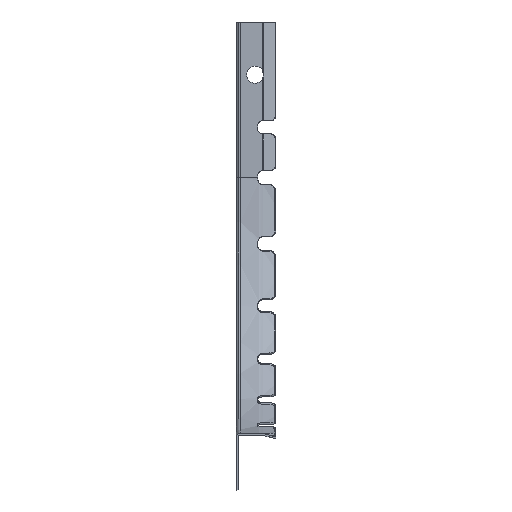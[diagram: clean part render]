
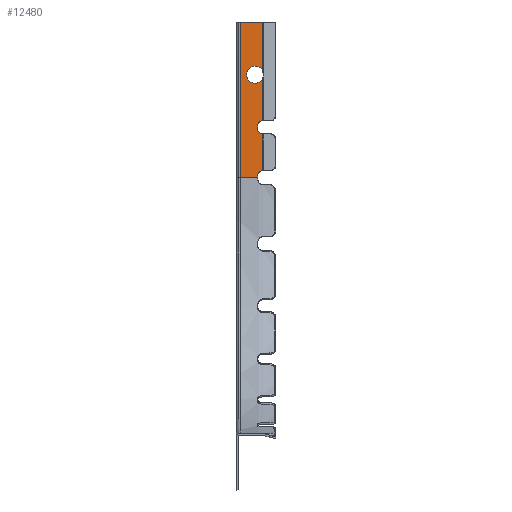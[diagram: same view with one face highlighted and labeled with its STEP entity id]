
A CAD part, left-side view. The second image highlights one B-rep face of the part: STEP entity #12480.
In plain terms, the highlighted planar face has unit normal (-1, 0, 0).
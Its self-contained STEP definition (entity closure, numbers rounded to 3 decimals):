
#220 = CIRCLE ( 'NONE', #7707, 3.25 ) ;
#586 = LINE ( 'NONE', #6348, #2292 ) ;
#1059 = AXIS2_PLACEMENT_3D ( 'NONE', #9119, #14666, #6329 ) ;
#1060 = VERTEX_POINT ( 'NONE', #14009 ) ;
#1300 = VERTEX_POINT ( 'NONE', #9454 ) ;
#1370 = CARTESIAN_POINT ( 'NONE',  ( -250.7, -0.8, 348.01 ) ) ;
#1420 = VERTEX_POINT ( 'NONE', #16887 ) ;
#1421 = ORIENTED_EDGE ( 'NONE', *, *, #4627, .T. ) ;
#2292 = VECTOR ( 'NONE', #10053, 1000. ) ;
#2356 = DIRECTION ( 'NONE',  ( 0., 0., 1. ) ) ;
#2440 = DIRECTION ( 'NONE',  ( 1., 0., 0. ) ) ;
#2532 = CARTESIAN_POINT ( 'NONE',  ( -250.7, -6.445, 387. ) ) ;
#2772 = VECTOR ( 'NONE', #11711, 1000. ) ;
#3116 = CARTESIAN_POINT ( 'NONE',  ( -250.7, -6.445, 390.25 ) ) ;
#3301 = EDGE_LOOP ( 'NONE', ( #15343, #16730, #5082, #13167, #9598, #8528, #12045, #8770, #16611, #5265, #7321, #3890, #8244, #1421 ) ) ;
#3370 = AXIS2_PLACEMENT_3D ( 'NONE', #10011, #15550, #8650 ) ;
#3451 = CARTESIAN_POINT ( 'NONE',  ( -250.7, 0., 348.01 ) ) ;
#3467 = CARTESIAN_POINT ( 'NONE',  ( -250.7, -9.195, 369.484 ) ) ;
#3625 = EDGE_CURVE ( 'NONE', #10505, #1300, #12558, .T. ) ;
#3628 = VECTOR ( 'NONE', #16945, 1000. ) ;
#3890 = ORIENTED_EDGE ( 'NONE', *, *, #5836, .T. ) ;
#3891 = CARTESIAN_POINT ( 'NONE',  ( -250.7, -9.195, 388.733 ) ) ;
#3966 = DIRECTION ( 'NONE',  ( 0., 0., 1. ) ) ;
#4508 = FACE_OUTER_BOUND ( 'NONE', #3301, .T. ) ;
#4559 = DIRECTION ( 'NONE',  ( 0., -1., 0. ) ) ;
#4627 = EDGE_CURVE ( 'NONE', #10215, #1060, #10217, .T. ) ;
#4805 = DIRECTION ( 'NONE',  ( 0., 0., 1. ) ) ;
#4862 = VERTEX_POINT ( 'NONE', #1370 ) ;
#5082 = ORIENTED_EDGE ( 'NONE', *, *, #9008, .T. ) ;
#5183 = EDGE_CURVE ( 'NONE', #11433, #4862, #7237, .T. ) ;
#5191 = VERTEX_POINT ( 'NONE', #12784 ) ;
#5265 = ORIENTED_EDGE ( 'NONE', *, *, #16766, .T. ) ;
#5272 = EDGE_CURVE ( 'NONE', #1060, #10880, #6506, .T. ) ;
#5799 = CARTESIAN_POINT ( 'NONE',  ( -250.7, -6.445, 387. ) ) ;
#5836 = EDGE_CURVE ( 'NONE', #1300, #5191, #7535, .T. ) ;
#5927 = VECTOR ( 'NONE', #4559, 1000. ) ;
#6329 = DIRECTION ( 'NONE',  ( 0., 1., 0. ) ) ;
#6348 = CARTESIAN_POINT ( 'NONE',  ( -250.7, -9.195, 348.01 ) ) ;
#6452 = VERTEX_POINT ( 'NONE', #7107 ) ;
#6506 = CIRCLE ( 'NONE', #17200, 3.25 ) ;
#6597 = DIRECTION ( 'NONE',  ( 0., 0., 1. ) ) ;
#6672 = CARTESIAN_POINT ( 'NONE',  ( -250.7, -9.195, 407. ) ) ;
#6747 = AXIS2_PLACEMENT_3D ( 'NONE', #17077, #14188, #9910 ) ;
#7107 = CARTESIAN_POINT ( 'NONE',  ( -250.7, -7.445, 348.51 ) ) ;
#7237 = LINE ( 'NONE', #3451, #3628 ) ;
#7321 = ORIENTED_EDGE ( 'NONE', *, *, #3625, .T. ) ;
#7535 = LINE ( 'NONE', #10249, #2772 ) ;
#7707 = AXIS2_PLACEMENT_3D ( 'NONE', #9472, #9554, #15016 ) ;
#7843 = CARTESIAN_POINT ( 'NONE',  ( -250.7, -7.445, 348.01 ) ) ;
#7979 = VECTOR ( 'NONE', #3966, 1000. ) ;
#8244 = ORIENTED_EDGE ( 'NONE', *, *, #8911, .T. ) ;
#8528 = ORIENTED_EDGE ( 'NONE', *, *, #10081, .F. ) ;
#8650 = DIRECTION ( 'NONE',  ( 0., 0., 1. ) ) ;
#8770 = ORIENTED_EDGE ( 'NONE', *, *, #11426, .T. ) ;
#8911 = EDGE_CURVE ( 'NONE', #5191, #10215, #12864, .T. ) ;
#9008 = EDGE_CURVE ( 'NONE', #12298, #17331, #15178, .T. ) ;
#9053 = CARTESIAN_POINT ( 'NONE',  ( -250.7, -9.3, 407. ) ) ;
#9099 = DIRECTION ( 'NONE',  ( 0., 1., 0. ) ) ;
#9119 = CARTESIAN_POINT ( 'NONE',  ( -250.7, -9.445, 348.51 ) ) ;
#9454 = CARTESIAN_POINT ( 'NONE',  ( -250.7, -7.445, 366.5 ) ) ;
#9472 = CARTESIAN_POINT ( 'NONE',  ( -250.7, -6.445, 387. ) ) ;
#9526 = LINE ( 'NONE', #17690, #15193 ) ;
#9554 = DIRECTION ( 'NONE',  ( 1., 0., 0. ) ) ;
#9598 = ORIENTED_EDGE ( 'NONE', *, *, #10214, .F. ) ;
#9660 = AXIS2_PLACEMENT_3D ( 'NONE', #2532, #2440, #2356 ) ;
#9700 = EDGE_CURVE ( 'NONE', #17331, #11597, #14567, .T. ) ;
#9755 = EDGE_CURVE ( 'NONE', #6452, #1420, #15769, .T. ) ;
#9910 = DIRECTION ( 'NONE',  ( 0., 1., 0. ) ) ;
#10011 = CARTESIAN_POINT ( 'NONE',  ( -250.7, 0., 407. ) ) ;
#10053 = DIRECTION ( 'NONE',  ( 0., 0., 1. ) ) ;
#10081 = EDGE_CURVE ( 'NONE', #4862, #16860, #9526, .T. ) ;
#10214 = EDGE_CURVE ( 'NONE', #16860, #11597, #12887, .T. ) ;
#10215 = VERTEX_POINT ( 'NONE', #3467 ) ;
#10217 = LINE ( 'NONE', #17204, #16051 ) ;
#10249 = CARTESIAN_POINT ( 'NONE',  ( -250.7, -7.445, 364.5 ) ) ;
#10287 = DIRECTION ( 'NONE',  ( 1., 0., 0. ) ) ;
#10505 = VERTEX_POINT ( 'NONE', #15290 ) ;
#10880 = VERTEX_POINT ( 'NONE', #15709 ) ;
#11426 = EDGE_CURVE ( 'NONE', #11433, #6452, #17545, .T. ) ;
#11433 = VERTEX_POINT ( 'NONE', #7843 ) ;
#11597 = VERTEX_POINT ( 'NONE', #6672 ) ;
#11711 = DIRECTION ( 'NONE',  ( 0., 0., 1. ) ) ;
#11780 = DIRECTION ( 'NONE',  ( 0., 0., 1. ) ) ;
#12045 = ORIENTED_EDGE ( 'NONE', *, *, #5183, .F. ) ;
#12298 = VERTEX_POINT ( 'NONE', #3116 ) ;
#12352 = DIRECTION ( 'NONE',  ( 0., 0., 1. ) ) ;
#12480 = ADVANCED_FACE ( 'NONE', ( #4508 ), #13023, .F. ) ;
#12558 = CIRCLE ( 'NONE', #6747, 2. ) ;
#12584 = AXIS2_PLACEMENT_3D ( 'NONE', #13111, #10287, #9099 ) ;
#12784 = CARTESIAN_POINT ( 'NONE',  ( -250.7, -7.445, 367.5 ) ) ;
#12864 = CIRCLE ( 'NONE', #12584, 2. ) ;
#12887 = LINE ( 'NONE', #9053, #5927 ) ;
#13023 = PLANE ( 'NONE',  #3370 ) ;
#13111 = CARTESIAN_POINT ( 'NONE',  ( -250.7, -9.445, 367.5 ) ) ;
#13157 = EDGE_CURVE ( 'NONE', #10880, #12298, #220, .T. ) ;
#13167 = ORIENTED_EDGE ( 'NONE', *, *, #9700, .T. ) ;
#13186 = VECTOR ( 'NONE', #6597, 1000. ) ;
#13499 = CARTESIAN_POINT ( 'NONE',  ( -250.7, -9.195, 348.01 ) ) ;
#14009 = CARTESIAN_POINT ( 'NONE',  ( -250.7, -9.195, 385.267 ) ) ;
#14188 = DIRECTION ( 'NONE',  ( 1., 0., 0. ) ) ;
#14567 = LINE ( 'NONE', #13499, #13186 ) ;
#14666 = DIRECTION ( 'NONE',  ( 1., 0., 0. ) ) ;
#14766 = DIRECTION ( 'NONE',  ( 1., 0., 0. ) ) ;
#15016 = DIRECTION ( 'NONE',  ( 0., 0., 1. ) ) ;
#15178 = CIRCLE ( 'NONE', #9660, 3.25 ) ;
#15193 = VECTOR ( 'NONE', #12352, 1000. ) ;
#15290 = CARTESIAN_POINT ( 'NONE',  ( -250.7, -9.195, 364.516 ) ) ;
#15343 = ORIENTED_EDGE ( 'NONE', *, *, #5272, .T. ) ;
#15550 = DIRECTION ( 'NONE',  ( 1., 0., 0. ) ) ;
#15709 = CARTESIAN_POINT ( 'NONE',  ( -250.7, -6.445, 383.75 ) ) ;
#15769 = CIRCLE ( 'NONE', #1059, 2. ) ;
#16051 = VECTOR ( 'NONE', #4805, 1000. ) ;
#16611 = ORIENTED_EDGE ( 'NONE', *, *, #9755, .T. ) ;
#16730 = ORIENTED_EDGE ( 'NONE', *, *, #13157, .T. ) ;
#16766 = EDGE_CURVE ( 'NONE', #1420, #10505, #586, .T. ) ;
#16860 = VERTEX_POINT ( 'NONE', #17489 ) ;
#16887 = CARTESIAN_POINT ( 'NONE',  ( -250.7, -9.195, 350.494 ) ) ;
#16945 = DIRECTION ( 'NONE',  ( 0., 1., 0. ) ) ;
#17077 = CARTESIAN_POINT ( 'NONE',  ( -250.7, -9.445, 366.5 ) ) ;
#17200 = AXIS2_PLACEMENT_3D ( 'NONE', #5799, #14766, #11780 ) ;
#17204 = CARTESIAN_POINT ( 'NONE',  ( -250.7, -9.195, 348.01 ) ) ;
#17331 = VERTEX_POINT ( 'NONE', #3891 ) ;
#17454 = CARTESIAN_POINT ( 'NONE',  ( -250.7, -7.445, 345.51 ) ) ;
#17489 = CARTESIAN_POINT ( 'NONE',  ( -250.7, -0.8, 407. ) ) ;
#17545 = LINE ( 'NONE', #17454, #7979 ) ;
#17690 = CARTESIAN_POINT ( 'NONE',  ( -250.7, -0.8, 407. ) ) ;
